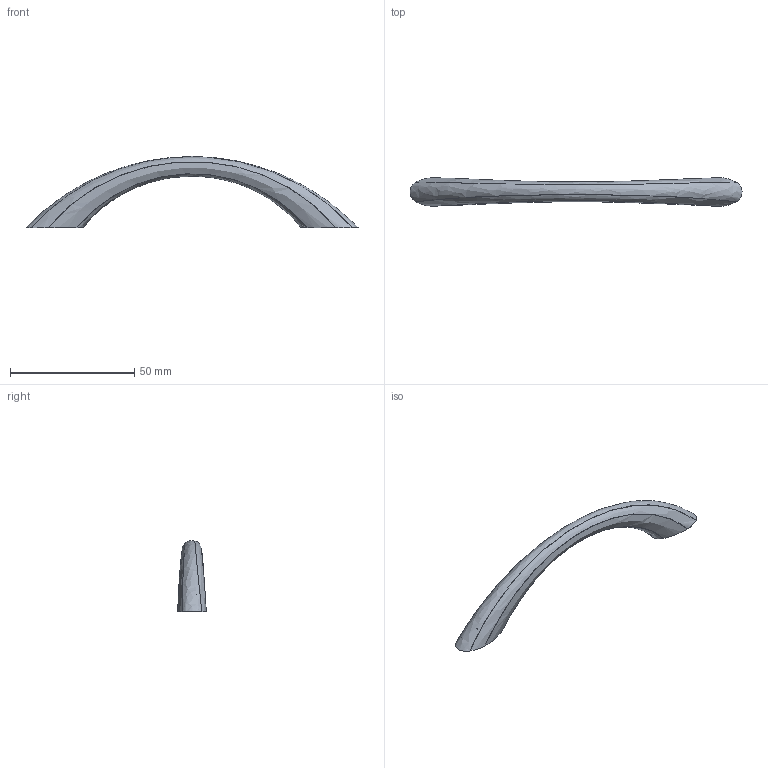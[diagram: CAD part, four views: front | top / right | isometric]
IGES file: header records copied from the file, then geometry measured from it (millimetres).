
Start section: C
Global section: file name: 0549-134.igs; native system: By Siemens PLM Incorporated; preprocessor: XPlus GENERIC/IGES 16.0.42; author: Author; organization: Title; date: 20260104.150919; units: millimetre
Bounding box: 133.5 x 11.49 x 28.6 mm (x, y, z)
Surface area: 4887 mm2 (no closed solid volume)
Topology: 0 solids, 0 shells, 27 faces, 166 edges, 166 vertices
Faces by surface type: bspline 27
